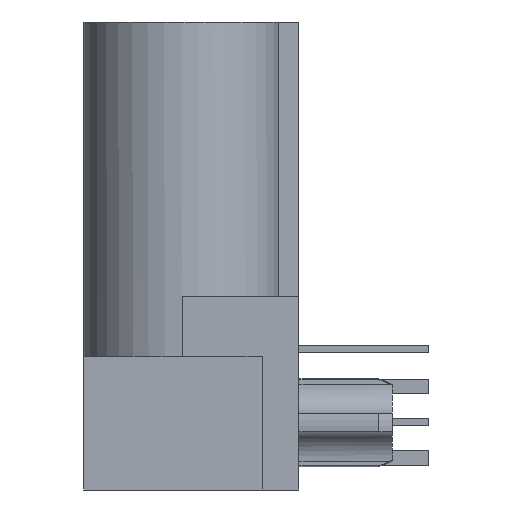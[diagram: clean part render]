
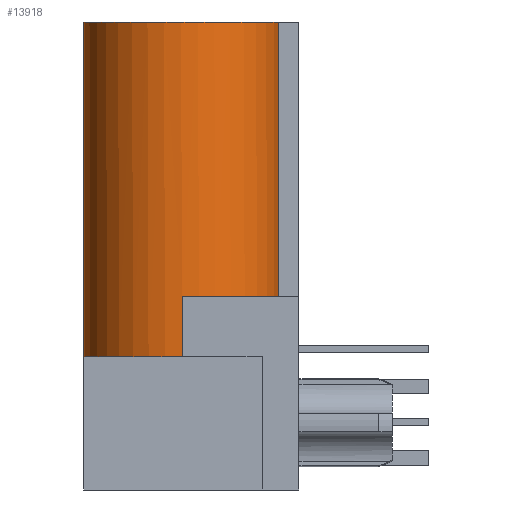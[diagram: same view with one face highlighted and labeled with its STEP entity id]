
A CAD part, left-side view. The second image highlights one B-rep face of the part: STEP entity #13918.
In plain terms, the highlighted cylindrical face has radius 3.43 mm (diameter 6.86 mm), a partial arc.
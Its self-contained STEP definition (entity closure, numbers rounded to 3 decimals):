
#1233=CARTESIAN_POINT('',(-20.94,-0.04,-1.4));
#1234=DIRECTION('',(0.,0.,-1.));
#1235=DIRECTION('',(-0.201,-0.98,0.));
#1236=AXIS2_PLACEMENT_3D('',#1233,#1234,#1235);
#1251=DIRECTION('',(0.,0.,1.));
#1252=VECTOR('',#1251,2.11);
#1253=CARTESIAN_POINT('',(-24.37,-0.04,-3.51));
#1254=LINE('',#1253,#1252);
#1271=DIRECTION('',(0.,0.,1.));
#1272=VECTOR('',#1271,11.65);
#1273=CARTESIAN_POINT('',(-20.94,3.39,-3.51));
#1274=LINE('',#1273,#1272);
#1275=DIRECTION('',(0.,0.,-1.));
#1276=VECTOR('',#1275,9.54);
#1277=CARTESIAN_POINT('',(-21.629,-3.4,8.14));
#1278=LINE('',#1277,#1276);
#1288=CARTESIAN_POINT('',(-20.94,-0.04,-3.51));
#1289=DIRECTION('',(0.,0.,1.));
#1290=DIRECTION('',(0.,1.,0.));
#1291=AXIS2_PLACEMENT_3D('',#1288,#1289,#1290);
#1371=CARTESIAN_POINT('',(-20.94,-0.04,8.14));
#1372=DIRECTION('',(0.,0.,-1.));
#1373=DIRECTION('',(-0.201,-0.98,0.));
#1374=AXIS2_PLACEMENT_3D('',#1371,#1372,#1373);
#10039=CARTESIAN_POINT('',(-21.629,-3.4,8.14));
#10040=CARTESIAN_POINT('',(-20.94,3.39,8.14));
#10041=VERTEX_POINT('',#10039);
#10042=VERTEX_POINT('',#10040);
#10049=CARTESIAN_POINT('',(-21.629,-3.4,-1.4));
#10050=VERTEX_POINT('',#10049);
#10063=CARTESIAN_POINT('',(-24.37,-0.04,-3.51));
#10064=CARTESIAN_POINT('',(-24.37,-0.04,-1.4));
#10065=VERTEX_POINT('',#10063);
#10066=VERTEX_POINT('',#10064);
#10077=CARTESIAN_POINT('',(-20.94,3.39,-3.51));
#10078=VERTEX_POINT('',#10077);
#13901=CARTESIAN_POINT('',(-20.94,-0.04,8.14));
#13902=DIRECTION('',(0.,0.,1.));
#13903=DIRECTION('',(1.,0.,0.));
#13904=AXIS2_PLACEMENT_3D('',#13901,#13902,#13903);
#13905=CYLINDRICAL_SURFACE('',#13904,3.43);
#13906=ORIENTED_EDGE('',*,*,#13860,.T.);
#13907=ORIENTED_EDGE('',*,*,#13888,.F.);
#13909=ORIENTED_EDGE('',*,*,#13908,.F.);
#13911=ORIENTED_EDGE('',*,*,#13910,.T.);
#13913=ORIENTED_EDGE('',*,*,#13912,.F.);
#13915=ORIENTED_EDGE('',*,*,#13914,.T.);
#13916=EDGE_LOOP('',(#13906,#13907,#13909,#13911,#13913,#13915));
#13917=FACE_OUTER_BOUND('',#13916,.F.);
#13918=ADVANCED_FACE('',(#13917),#13905,.T.);
#1237=CIRCLE('',#1236,3.43);
#1292=CIRCLE('',#1291,3.43);
#1375=CIRCLE('',#1374,3.43);
#13860=EDGE_CURVE('',#10050,#10066,#1237,.T.);
#13888=EDGE_CURVE('',#10065,#10066,#1254,.T.);
#13908=EDGE_CURVE('',#10078,#10065,#1292,.T.);
#13910=EDGE_CURVE('',#10078,#10042,#1274,.T.);
#13912=EDGE_CURVE('',#10041,#10042,#1375,.T.);
#13914=EDGE_CURVE('',#10041,#10050,#1278,.T.);
